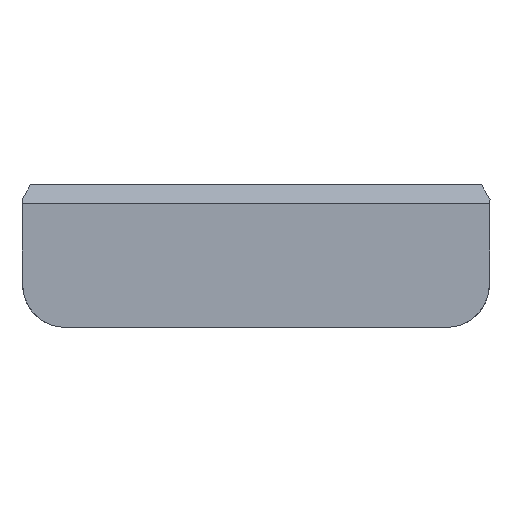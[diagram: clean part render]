
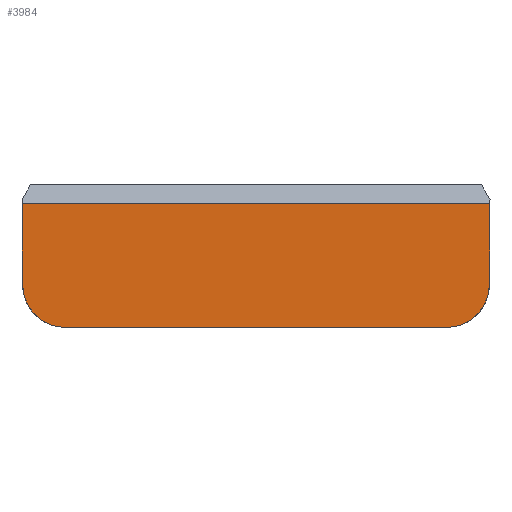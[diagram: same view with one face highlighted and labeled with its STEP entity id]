
A CAD part, front view. The second image highlights one B-rep face of the part: STEP entity #3984.
In plain terms, the highlighted planar face has unit normal (0, -1, -0.009).
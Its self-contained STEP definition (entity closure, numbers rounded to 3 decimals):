
#39 = CARTESIAN_POINT ( 'NONE',  ( -27.412, -8.912, 4.956 ) ) ;
#268 = CARTESIAN_POINT ( 'NONE',  ( 27.412, -8.912, 4.956 ) ) ;
#390 = LINE ( 'NONE', #2423, #15744 ) ;
#410 = CARTESIAN_POINT ( 'NONE',  ( 27.5, -8.869, 0. ) ) ;
#1147 =( BOUNDED_CURVE ( )  B_SPLINE_CURVE ( 3, ( #39, #11656, #8898, #3824 ),
 .UNSPECIFIED., .F., .F. ) 
 B_SPLINE_CURVE_WITH_KNOTS ( ( 4, 4 ),
 ( 4.721, 6.283 ),
 .UNSPECIFIED. ) 
 CURVE ( )  GEOMETRIC_REPRESENTATION_ITEM ( )  RATIONAL_B_SPLINE_CURVE ( ( 1., 0.807, 0.807, 1. ) ) 
 REPRESENTATION_ITEM ( '' )  );
#1630 = DIRECTION ( 'NONE',  ( 0., 1., 0.009 ) ) ;
#1679 = CARTESIAN_POINT ( 'NONE',  ( -27.5, -9., 15. ) ) ;
#1728 = CARTESIAN_POINT ( 'NONE',  ( 27.496, -8.996, 14.5 ) ) ;
#1858 = VECTOR ( 'NONE', #14459, 1000. ) ;
#2134 = AXIS2_PLACEMENT_3D ( 'NONE', #410, #1630, #14366 ) ;
#2423 = CARTESIAN_POINT ( 'NONE',  ( 27.5, -8.869, 0. ) ) ;
#2932 = ORIENTED_EDGE ( 'NONE', *, *, #5362, .F. ) ;
#3549 = VERTEX_POINT ( 'NONE', #11919 ) ;
#3824 = CARTESIAN_POINT ( 'NONE',  ( -22.413, -8.869, 0. ) ) ;
#3836 = ORIENTED_EDGE ( 'NONE', *, *, #5673, .T. ) ;
#3846 = CARTESIAN_POINT ( 'NONE',  ( -27.412, -8.912, 4.956 ) ) ;
#3984 = ADVANCED_FACE ( 'NONE', ( #9503 ), #10673, .F. ) ;
#4502 = DIRECTION ( 'NONE',  ( -1., 0., 0. ) ) ;
#5333 = VERTEX_POINT ( 'NONE', #10193 ) ;
#5362 = EDGE_CURVE ( 'NONE', #8956, #3549, #390, .T. ) ;
#5522 = VERTEX_POINT ( 'NONE', #1728 ) ;
#5673 = EDGE_CURVE ( 'NONE', #5522, #5333, #6962, .T. ) ;
#6962 = LINE ( 'NONE', #15900, #11582 ) ;
#7218 = DIRECTION ( 'NONE',  ( -0.009, 0.009, -1. ) ) ;
#7290 = ORIENTED_EDGE ( 'NONE', *, *, #9982, .T. ) ;
#7415 = EDGE_CURVE ( 'NONE', #12314, #8956, #14948, .T. ) ;
#7562 = DIRECTION ( 'NONE',  ( -1., 0., 0. ) ) ;
#7595 = ORIENTED_EDGE ( 'NONE', *, *, #11911, .F. ) ;
#7823 = EDGE_CURVE ( 'NONE', #13792, #3549, #1147, .T. ) ;
#8781 = ORIENTED_EDGE ( 'NONE', *, *, #7823, .T. ) ;
#8898 = CARTESIAN_POINT ( 'NONE',  ( -25.321, -8.869, 0. ) ) ;
#8956 = VERTEX_POINT ( 'NONE', #14861 ) ;
#9058 = LINE ( 'NONE', #1679, #1858 ) ;
#9249 = CARTESIAN_POINT ( 'NONE',  ( 27.387, -8.887, 2.048 ) ) ;
#9503 = FACE_OUTER_BOUND ( 'NONE', #10039, .T. ) ;
#9982 = EDGE_CURVE ( 'NONE', #5333, #13792, #9058, .T. ) ;
#10039 = EDGE_LOOP ( 'NONE', ( #7595, #3836, #7290, #8781, #2932, #12071 ) ) ;
#10193 = CARTESIAN_POINT ( 'NONE',  ( -27.496, -8.996, 14.5 ) ) ;
#10673 = PLANE ( 'NONE',  #2134 ) ;
#11023 = CARTESIAN_POINT ( 'NONE',  ( 27.5, -9., 15. ) ) ;
#11212 = CARTESIAN_POINT ( 'NONE',  ( 27.412, -8.912, 4.956 ) ) ;
#11582 = VECTOR ( 'NONE', #4502, 1000. ) ;
#11656 = CARTESIAN_POINT ( 'NONE',  ( -27.387, -8.887, 2.048 ) ) ;
#11911 = EDGE_CURVE ( 'NONE', #5522, #12314, #12017, .T. ) ;
#11919 = CARTESIAN_POINT ( 'NONE',  ( -22.413, -8.869, 0. ) ) ;
#12017 = LINE ( 'NONE', #11023, #12208 ) ;
#12071 = ORIENTED_EDGE ( 'NONE', *, *, #7415, .F. ) ;
#12208 = VECTOR ( 'NONE', #7218, 1000. ) ;
#12314 = VERTEX_POINT ( 'NONE', #11212 ) ;
#13792 = VERTEX_POINT ( 'NONE', #3846 ) ;
#14127 = CARTESIAN_POINT ( 'NONE',  ( 25.321, -8.869, 0. ) ) ;
#14366 = DIRECTION ( 'NONE',  ( 0., -0.009, 1. ) ) ;
#14459 = DIRECTION ( 'NONE',  ( 0.009, 0.009, -1. ) ) ;
#14861 = CARTESIAN_POINT ( 'NONE',  ( 22.413, -8.869, 0. ) ) ;
#14948 =( BOUNDED_CURVE ( )  B_SPLINE_CURVE ( 3, ( #268, #9249, #14127, #15452 ),
 .UNSPECIFIED., .F., .T. ) 
 B_SPLINE_CURVE_WITH_KNOTS ( ( 4, 4 ),
 ( 4.721, 6.283 ),
 .UNSPECIFIED. ) 
 CURVE ( )  GEOMETRIC_REPRESENTATION_ITEM ( )  RATIONAL_B_SPLINE_CURVE ( ( 1., 0.807, 0.807, 1. ) ) 
 REPRESENTATION_ITEM ( '' )  );
#15452 = CARTESIAN_POINT ( 'NONE',  ( 22.413, -8.869, 0. ) ) ;
#15744 = VECTOR ( 'NONE', #7562, 1000. ) ;
#15900 = CARTESIAN_POINT ( 'NONE',  ( 27.5, -8.996, 14.5 ) ) ;
